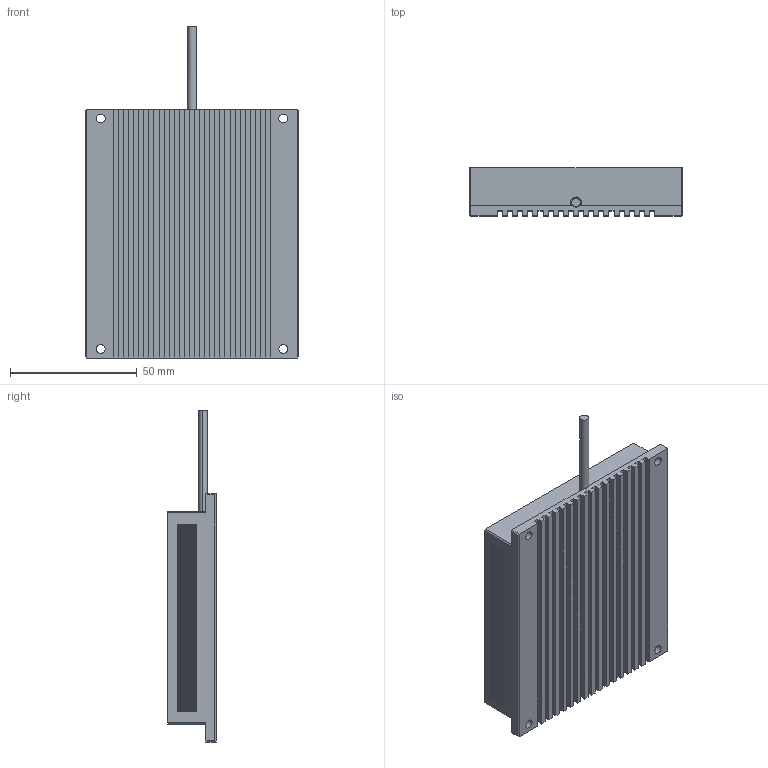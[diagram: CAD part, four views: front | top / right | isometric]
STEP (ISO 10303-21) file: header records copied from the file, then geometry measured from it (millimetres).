
FILE_DESCRIPTION((''),'2;1');
FILE_NAME('2','2024-11-09T14:59:42',('win 10'),(''),'CREO PARAMETRIC BY PTC INC, 2019010','CREO PARAMETRIC BY PTC INC, 2019010','');
FILE_SCHEMA(('CONFIG_CONTROL_DESIGN'));
Length unit declared in the file: millimetre
Products named in the file (1): 2
Bounding box: 84 x 19 x 131 mm (x, y, z)
Volume: 131925.1 mm3; surface area: 30623.3 mm2
Topology: 1 solids, 3 shells, 194 faces, 532 edges, 352 vertices
Faces by surface type: plane 147, cylinder 45, cone 2
Entity records: 6156 total; most frequent: CARTESIAN_POINT 1078, ORIENTED_EDGE 1064, DIRECTION 1014, EDGE_CURVE 532, VECTOR 438, LINE 438, VERTEX_POINT 352, AXIS2_PLACEMENT_3D 288
